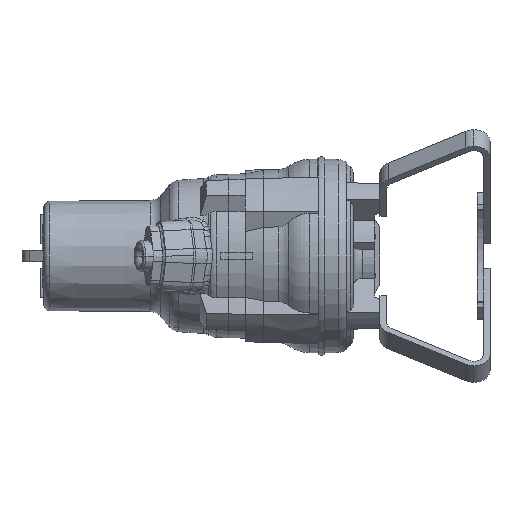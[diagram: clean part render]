
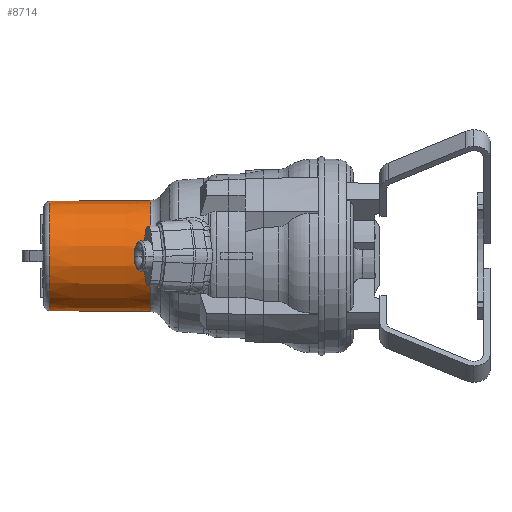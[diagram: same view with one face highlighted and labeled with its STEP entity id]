
A CAD part, left-side view. The second image highlights one B-rep face of the part: STEP entity #8714.
In plain terms, the highlighted conical face has half-angle 0.494 degrees and reference radius 84.5 mm.
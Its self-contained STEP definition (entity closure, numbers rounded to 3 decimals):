
#193 = CARTESIAN_POINT ( 'NONE',  ( 0., 123.221, 85.921 ) ) ;
#729 = DIRECTION ( 'NONE',  ( 0., 1., 0. ) ) ;
#1968 = DIRECTION ( 'NONE',  ( 0., 0., -1. ) ) ;
#2140 = ORIENTED_EDGE ( 'NONE', *, *, #21993, .F. ) ;
#2320 = CIRCLE ( 'NONE', #16186, 84.58 ) ;
#2382 = CARTESIAN_POINT ( 'NONE',  ( 0., 288., -84.5 ) ) ;
#3018 = ORIENTED_EDGE ( 'NONE', *, *, #7428, .T. ) ;
#3306 = AXIS2_PLACEMENT_3D ( 'NONE', #22927, #25031, #29673 ) ;
#3410 = ORIENTED_EDGE ( 'NONE', *, *, #8718, .T. ) ;
#3630 = DIRECTION ( 'NONE',  ( 0., 0., 1. ) ) ;
#5081 = DIRECTION ( 'NONE',  ( 0., 0., -1. ) ) ;
#5416 = DIRECTION ( 'NONE',  ( 0., -1., 0.009 ) ) ;
#7135 = CARTESIAN_POINT ( 'NONE',  ( 0., 278.764, -84.58 ) ) ;
#7428 = EDGE_CURVE ( 'NONE', #25409, #24511, #2320, .T. ) ;
#7619 = CARTESIAN_POINT ( 'NONE',  ( -85.916, 123.673, -1.001 ) ) ;
#7751 = CARTESIAN_POINT ( 'NONE',  ( -85.871, 123.221, 2.923 ) ) ;
#8242 = EDGE_CURVE ( 'NONE', #25676, #13737, #19588, .T. ) ;
#8714 = ADVANCED_FACE ( 'NONE', ( #27427 ), #26300, .T. ) ;
#8718 = EDGE_CURVE ( 'NONE', #24511, #19566, #20365, .T. ) ;
#8895 = EDGE_CURVE ( 'NONE', #19566, #27595, #25854, .T. ) ;
#10005 = CARTESIAN_POINT ( 'NONE',  ( -85.913, 123.636, 0.983 ) ) ;
#11203 = B_SPLINE_CURVE_WITH_KNOTS ( 'NONE', 3,
 ( #19028, #28192, #7619, #14533, #10005, #19169, #28331, #7751 ),
 .UNSPECIFIED., .F., .F.,
 ( 4, 2, 2, 4 ),
 ( 0., 0.003, 0.004, 0.006 ),
 .UNSPECIFIED. ) ;
#13015 = ORIENTED_EDGE ( 'NONE', *, *, #8242, .T. ) ;
#13026 = ORIENTED_EDGE ( 'NONE', *, *, #8895, .T. ) ;
#13219 = CARTESIAN_POINT ( 'NONE',  ( -85.871, 123.221, -2.923 ) ) ;
#13737 = VERTEX_POINT ( 'NONE', #193 ) ;
#14397 = EDGE_CURVE ( 'NONE', #27595, #25676, #11203, .T. ) ;
#14533 = CARTESIAN_POINT ( 'NONE',  ( -85.917, 123.675, 0.482 ) ) ;
#16186 = AXIS2_PLACEMENT_3D ( 'NONE', #20096, #17405, #3630 ) ;
#16250 = AXIS2_PLACEMENT_3D ( 'NONE', #25637, #729, #5081 ) ;
#17405 = DIRECTION ( 'NONE',  ( 0., -1., 0. ) ) ;
#18152 = AXIS2_PLACEMENT_3D ( 'NONE', #23344, #19809, #1968 ) ;
#18390 = CARTESIAN_POINT ( 'NONE',  ( -85.871, 123.221, 2.923 ) ) ;
#18456 = VECTOR ( 'NONE', #5416, 1000. ) ;
#19028 = CARTESIAN_POINT ( 'NONE',  ( -85.871, 123.221, -2.923 ) ) ;
#19169 = CARTESIAN_POINT ( 'NONE',  ( -85.897, 123.483, 1.963 ) ) ;
#19566 = VERTEX_POINT ( 'NONE', #20562 ) ;
#19588 = CIRCLE ( 'NONE', #18152, 85.921 ) ;
#19809 = DIRECTION ( 'NONE',  ( 0., 1., 0. ) ) ;
#20096 = CARTESIAN_POINT ( 'NONE',  ( 0., 278.764, 0. ) ) ;
#20365 = LINE ( 'NONE', #2382, #29161 ) ;
#20562 = CARTESIAN_POINT ( 'NONE',  ( 0., 123.221, -85.921 ) ) ;
#21756 = CARTESIAN_POINT ( 'NONE',  ( 0., 288., 84.5 ) ) ;
#21857 = CARTESIAN_POINT ( 'NONE',  ( 0., 278.764, 84.58 ) ) ;
#21993 = EDGE_CURVE ( 'NONE', #25409, #13737, #28523, .T. ) ;
#22638 = EDGE_LOOP ( 'NONE', ( #2140, #3018, #3410, #13026, #23704, #13015 ) ) ;
#22927 = CARTESIAN_POINT ( 'NONE',  ( 0., 288., 0. ) ) ;
#23344 = CARTESIAN_POINT ( 'NONE',  ( 0., 123.221, 0. ) ) ;
#23704 = ORIENTED_EDGE ( 'NONE', *, *, #14397, .T. ) ;
#24511 = VERTEX_POINT ( 'NONE', #7135 ) ;
#25031 = DIRECTION ( 'NONE',  ( 0., -1., 0. ) ) ;
#25409 = VERTEX_POINT ( 'NONE', #21857 ) ;
#25637 = CARTESIAN_POINT ( 'NONE',  ( 0., 123.221, 0. ) ) ;
#25676 = VERTEX_POINT ( 'NONE', #18390 ) ;
#25854 = CIRCLE ( 'NONE', #16250, 85.921 ) ;
#26300 = CONICAL_SURFACE ( 'NONE', #3306, 84.5, 0.009 ) ;
#27427 = FACE_OUTER_BOUND ( 'NONE', #22638, .T. ) ;
#27595 = VERTEX_POINT ( 'NONE', #13219 ) ;
#28192 = CARTESIAN_POINT ( 'NONE',  ( -85.901, 123.517, -1.97 ) ) ;
#28331 = CARTESIAN_POINT ( 'NONE',  ( -85.886, 123.369, 2.446 ) ) ;
#28523 = LINE ( 'NONE', #21756, #18456 ) ;
#29161 = VECTOR ( 'NONE', #29523, 1000. ) ;
#29523 = DIRECTION ( 'NONE',  ( 0., -1., -0.009 ) ) ;
#29673 = DIRECTION ( 'NONE',  ( 0., 0., -1. ) ) ;
